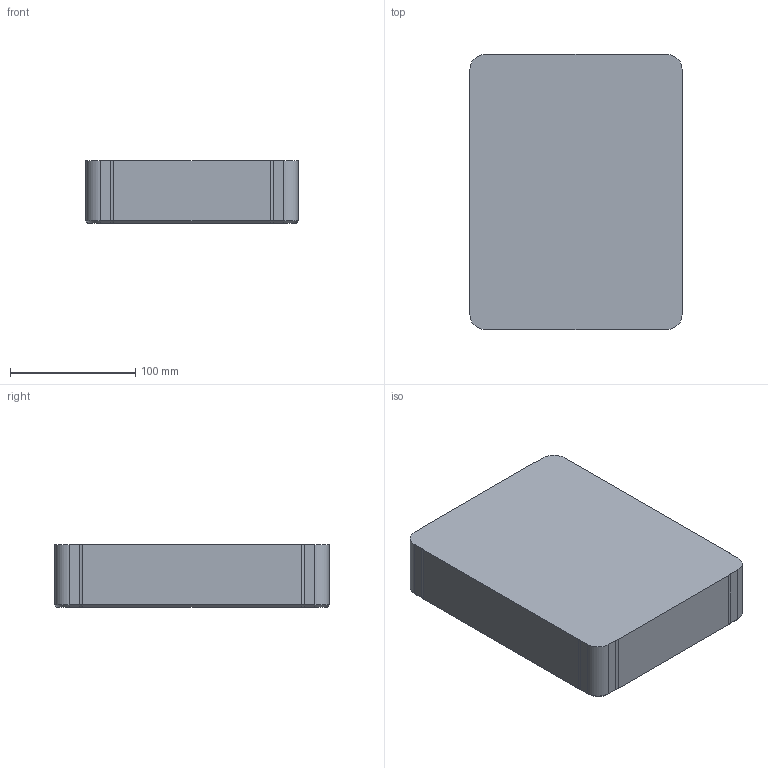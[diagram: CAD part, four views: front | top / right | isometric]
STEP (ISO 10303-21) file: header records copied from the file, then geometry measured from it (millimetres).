
FILE_DESCRIPTION (( 'STEP AP214' ), '1' );
FILE_NAME ('AS-Formeinsatz 170_220_50.STEP', '2024-02-26T13:44:57', ( '' ), ( '' ), 'SwSTEP 2.0', 'SolidWorks 2020', '' );
FILE_SCHEMA (( 'AUTOMOTIVE_DESIGN' ));
Length unit declared in the file: millimetre
Products named in the file (1): AS-Formeinsatz 170_220_50
Bounding box: 170 x 220 x 50 mm (x, y, z)
Volume: 1854151.9 mm3; surface area: 113677.4 mm2
Topology: 1 solids, 1 shells, 62 faces, 148 edges, 88 vertices
Faces by surface type: plane 26, cone 20, cylinder 16
Full cylindrical faces by diameter (mm): 8.5 x4
Entity records: 1710 total; most frequent: CARTESIAN_POINT 303, DIRECTION 298, ORIENTED_EDGE 264, EDGE_CURVE 132, AXIS2_PLACEMENT_3D 111, VERTEX_POINT 84, LINE 76, VECTOR 76
